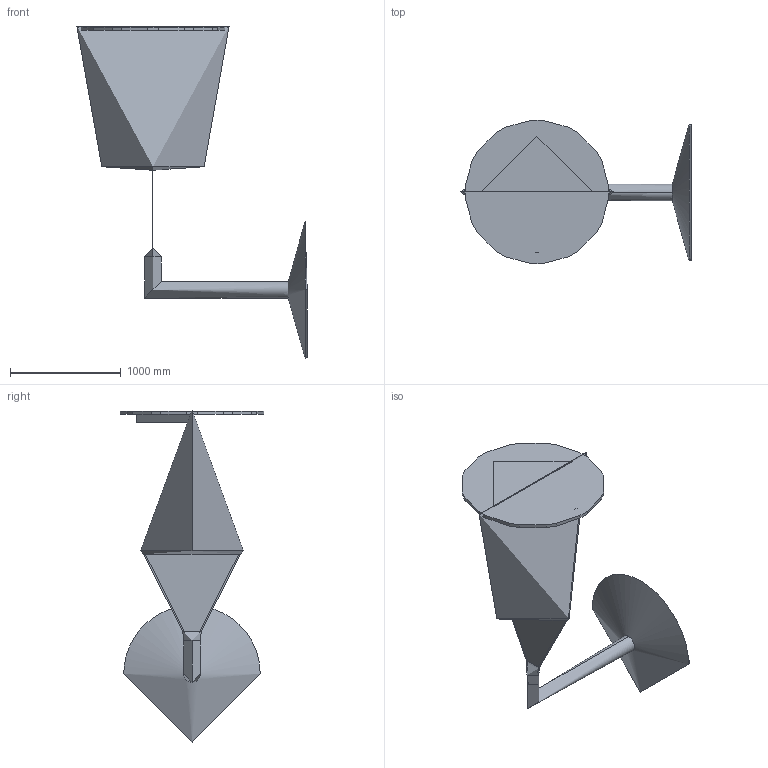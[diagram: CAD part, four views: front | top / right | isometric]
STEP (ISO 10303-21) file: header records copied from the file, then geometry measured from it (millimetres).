
FILE_DESCRIPTION(/* description */ (''),/* implementation_level */ '2;1');
FILE_NAME(/* name */ '4524',/* time_stamp */ '2022-01-20T16:49:54+01:00',/* author */ (''),/* organization */ (''),/* preprocessor_version */ 'ST-DEVELOPER v16.5',/* originating_system */ '',/* authorisation */ '');
FILE_SCHEMA (('CONFIG_CONTROL_DESIGN'));
Length unit declared in the file: centimetre
Products named in the file (1): Document
Bounding box: 2079.54 x 1296.41 x 2997.69 mm (x, y, z)
Volume: 337462440.5 mm3; surface area: 20103954.8 mm2
Topology: 3 solids, 3 shells, 65 faces, 170 edges, 111 vertices
Faces by surface type: cylinder 38, bspline 19, plane 8
Entity records: 2675 total; most frequent: CARTESIAN_POINT 1563, ORIENTED_EDGE 334, EDGE_CURVE 167, VERTEX_POINT 111, EDGE_LOOP 72, ADVANCED_FACE 65, FACE_OUTER_BOUND 65, DIRECTION 55
